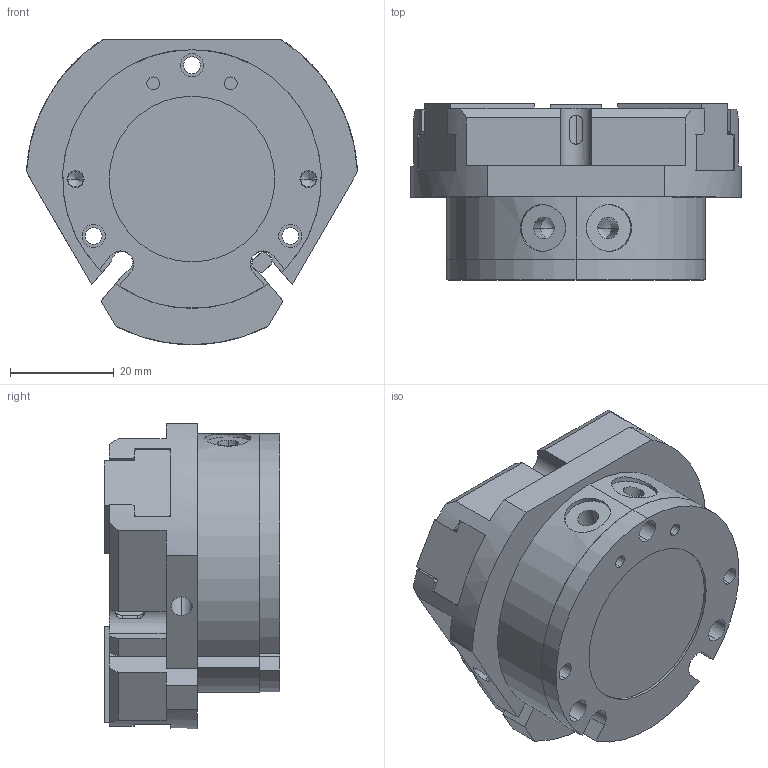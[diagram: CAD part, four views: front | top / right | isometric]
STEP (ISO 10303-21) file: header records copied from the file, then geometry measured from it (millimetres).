
FILE_DESCRIPTION (( 'STEP AP214' ), '1' );
FILE_NAME ('FCT 50A-1.STEP', '2021-09-16T00:24:09', ( 'DEEP' ), ( 'Microsoft' ), 'SwSTEP 2.0', 'SolidWorks 2016', '' );
FILE_SCHEMA (( 'AUTOMOTIVE_DESIGN' ));
Length unit declared in the file: millimetre
Products named in the file (11): FCT 50A-1-002; FCT 50A-1-001; FCT 50A-1-003; FCT 50A-1; FCT 50A-1-004
Assembly tree (6 placements, depth 2):
  FCT 50A-1-002
  FCT 50A-1-001
  FCT 50A-1-003
  FCT 50A-1
    FCT 50A-1-003
    FCT 50A-1-001
    FCT 50A-1-002  x3
    FCT 50A-1-004
  FCT 50A-1-004
Bounding box: 63.94 x 34 x 59 mm (x, y, z)
Volume: 69415.9 mm3; surface area: 26387.7 mm2
Topology: 6 solids, 6 shells, 355 faces, 914 edges, 576 vertices
Faces by surface type: plane 176, cylinder 125, cone 54
Entity records: 9204 total; most frequent: CARTESIAN_POINT 1909, DIRECTION 1516, ORIENTED_EDGE 1424, EDGE_CURVE 712, AXIS2_PLACEMENT_3D 543, VERTEX_POINT 464, VECTOR 430, LINE 430
